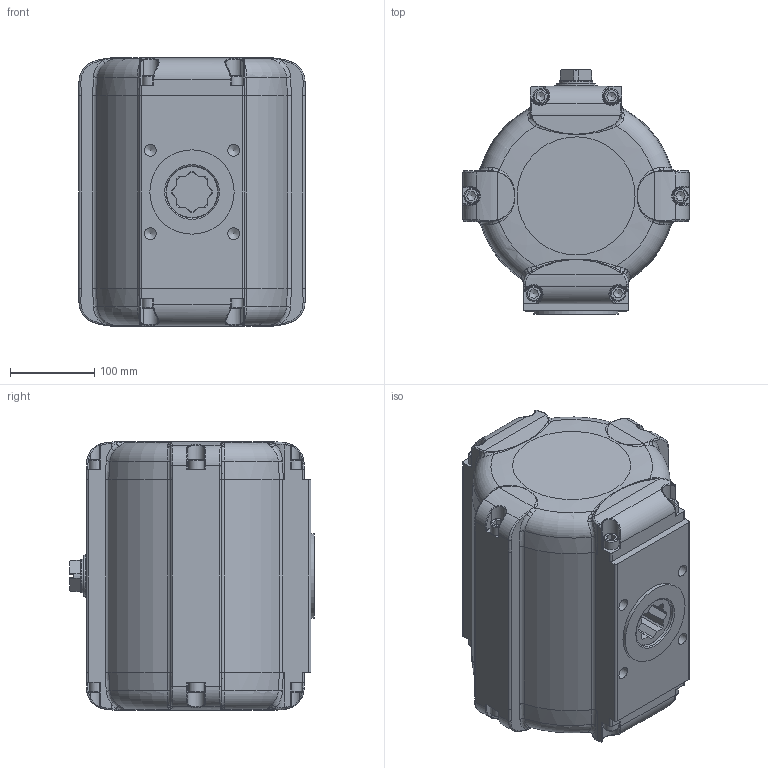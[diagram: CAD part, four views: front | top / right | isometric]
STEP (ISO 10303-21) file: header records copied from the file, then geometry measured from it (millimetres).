
FILE_DESCRIPTION((''),'2;1');
FILE_NAME('C:\Dokumente und Einstellungen\kir\Desktop\STEP IGES\SAD\SAD 40 BR03.stp','2006-12-19T10:35:18',('kir'),(''),'Autodesk Inventor 10','Autodesk Inventor 10','');
FILE_SCHEMA(('AUTOMOTIVE_DESIGN { 1 0 10303 214 1 1 1 1 }'));
Length unit declared in the file: millimetre
Products named in the file (1): ENG-039881
Bounding box: 268 x 289.85 x 318 mm (x, y, z)
Volume: 3887252.3 mm3; surface area: 742074.8 mm2
Topology: 1 solids, 29 shells, 1216 faces, 3030 edges, 1878 vertices
Faces by surface type: bspline 464, plane 309, cylinder 243, torus 138, cone 62
Full cylindrical faces by diameter (mm): 2.5 x2, 10.376 x6, 12 x12, 13 x6, 18 x12, 35 x2, 36 x1, 37 x2, 39.8 x3, 40 x1, 40.1 x1, 45 x1, 48.5 x1, 50 x1, 57 x3, 60 x1, 61.8 x3, 100 x1, 216 x1, 226.56 x2
Entity records: 71227 total; most frequent: CARTESIAN_POINT 46356, ORIENTED_EDGE 5414, DIRECTION 4568, EDGE_CURVE 2707, AXIS2_PLACEMENT_3D 1959, VERTEX_POINT 1746, EDGE_LOOP 1487, FACE_OUTER_BOUND 1215
